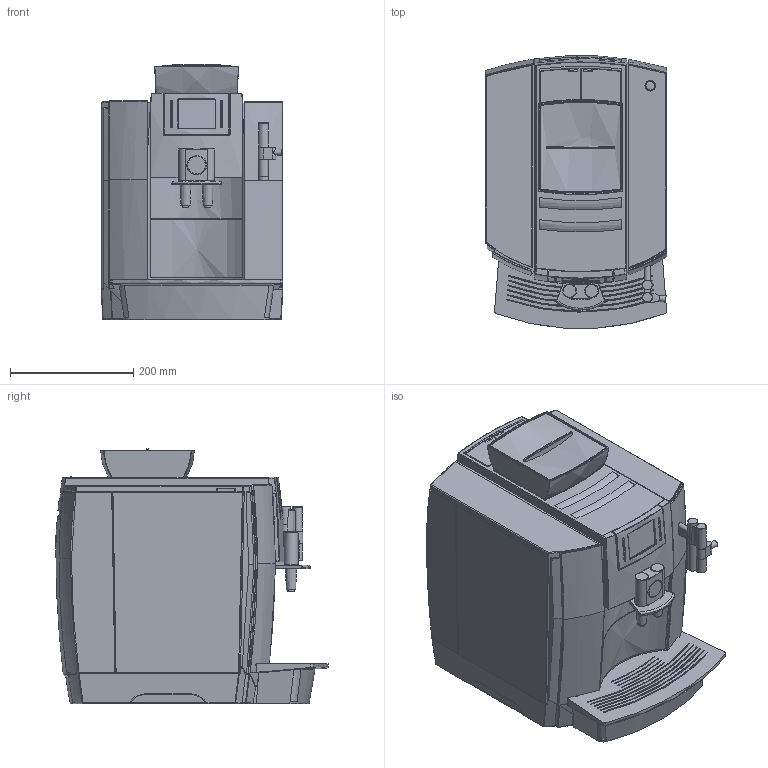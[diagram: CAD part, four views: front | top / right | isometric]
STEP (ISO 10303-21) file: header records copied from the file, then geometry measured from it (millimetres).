
FILE_DESCRIPTION (( 'STEP AP214' ), '1' );
FILE_NAME ('WE8_Feinschaumdüse.STEP', '2016-02-05T10:12:09', ( '' ), ( '' ), 'SwSTEP 2.0', 'SolidWorks 2015', '' );
FILE_SCHEMA (( 'AUTOMOTIVE_DESIGN' ));
Length unit declared in the file: millimetre
Products named in the file (1): WE8_Feinschaumdüse
Bounding box: 295 x 442.66 x 414.93 mm (x, y, z)
Volume: 36995635.8 mm3; surface area: 811937.4 mm2
Topology: 1 solids, 1 shells, 1329 faces, 3501 edges, 2170 vertices
Faces by surface type: bspline 804, plane 286, cylinder 168, sphere 31, cone 26, torus 14
Full cylindrical faces by diameter (mm): 9.9 x2, 10.2 x1, 15.31 x1, 15.8 x1, 16 x2, 22 x2, 28.5 x1
Entity records: 81629 total; most frequent: CARTESIAN_POINT 56024, ORIENTED_EDGE 6834, EDGE_CURVE 3417, DIRECTION 2820, VERTEX_POINT 2156, B_SPLINE_CURVE_WITH_KNOTS 2101, EDGE_LOOP 1407, FACE_OUTER_BOUND 1342
